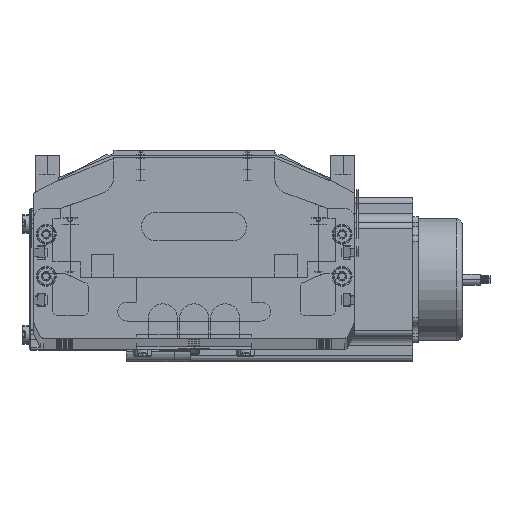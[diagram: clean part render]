
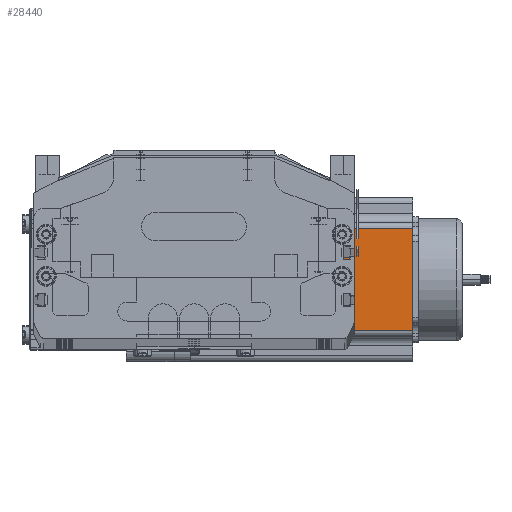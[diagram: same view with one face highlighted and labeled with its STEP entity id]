
A CAD part, top view. The second image highlights one B-rep face of the part: STEP entity #28440.
In plain terms, the highlighted planar face has unit normal (0, 0, 1) as drawn and (0, -1, 0) by its records, which use the part's own axes.
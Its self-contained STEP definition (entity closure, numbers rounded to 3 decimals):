
#27925 = EDGE_CURVE ( 'NONE', #28138, #28139, #86419, .T. ) ;
#27961 = ORIENTED_EDGE ( 'NONE', *, *, #27925, .T. ) ;
#27963 = VERTEX_POINT ( 'NONE', #86475 ) ;
#28035 = EDGE_CURVE ( 'NONE', #28441, #27963, #87006, .T. ) ;
#28038 = ORIENTED_EDGE ( 'NONE', *, *, #28035, .F. ) ;
#28055 = EDGE_CURVE ( 'NONE', #28441, #28138, #87048, .T. ) ;
#28075 = ORIENTED_EDGE ( 'NONE', *, *, #28077, .T. ) ;
#28077 = EDGE_CURVE ( 'NONE', #28139, #27963, #87114, .T. ) ;
#28100 = ORIENTED_EDGE ( 'NONE', *, *, #28055, .T. ) ;
#28138 = VERTEX_POINT ( 'NONE', #87270 ) ;
#28139 = VERTEX_POINT ( 'NONE', #87277 ) ;
#28437 = EDGE_LOOP ( 'NONE', ( #27961, #28075, #28038, #28100 ) ) ;
#28440 = ADVANCED_FACE ( 'NONE', ( #87978 ), #87997, .F. ) ;
#28441 = VERTEX_POINT ( 'NONE', #87976 ) ;
#86416 = DIRECTION ( 'NONE',  ( 1., 0., 0. ) ) ;
#86417 = VECTOR ( 'NONE', #86416, 1000. ) ;
#86418 = CARTESIAN_POINT ( 'NONE',  ( 0., 0., 0. ) ) ;
#86419 = LINE ( 'NONE', #86418, #86417 ) ;
#86475 = CARTESIAN_POINT ( 'NONE',  ( 69.74, 0., 116.5 ) ) ;
#87001 = DIRECTION ( 'NONE',  ( 1., 0., 0. ) ) ;
#87003 = VECTOR ( 'NONE', #87001, 1000. ) ;
#87005 = CARTESIAN_POINT ( 'NONE',  ( 0., 0., 116.5 ) ) ;
#87006 = LINE ( 'NONE', #87005, #87003 ) ;
#87025 = DIRECTION ( 'NONE',  ( 0., 0., -1. ) ) ;
#87026 = VECTOR ( 'NONE', #87025, 1000. ) ;
#87047 = CARTESIAN_POINT ( 'NONE',  ( 16.16, 0., 116.5 ) ) ;
#87048 = LINE ( 'NONE', #87047, #87026 ) ;
#87106 = DIRECTION ( 'NONE',  ( 0., 0., 1. ) ) ;
#87107 = VECTOR ( 'NONE', #87106, 1000. ) ;
#87113 = CARTESIAN_POINT ( 'NONE',  ( 69.74, 0., 116.5 ) ) ;
#87114 = LINE ( 'NONE', #87113, #87107 ) ;
#87270 = CARTESIAN_POINT ( 'NONE',  ( 16.16, 0., 0. ) ) ;
#87277 = CARTESIAN_POINT ( 'NONE',  ( 69.74, 0., 0. ) ) ;
#87976 = CARTESIAN_POINT ( 'NONE',  ( 16.16, 0., 116.5 ) ) ;
#87978 = FACE_OUTER_BOUND ( 'NONE', #28437, .T. ) ;
#87984 = DIRECTION ( 'NONE',  ( 0., 0., 1. ) ) ;
#87990 = DIRECTION ( 'NONE',  ( 0., 1., 0. ) ) ;
#87997 = PLANE ( 'NONE',  #88051 ) ;
#88003 = CARTESIAN_POINT ( 'NONE',  ( 0., 0., 116.5 ) ) ;
#88051 = AXIS2_PLACEMENT_3D ( 'NONE', #88003, #87990, #87984 ) ;
